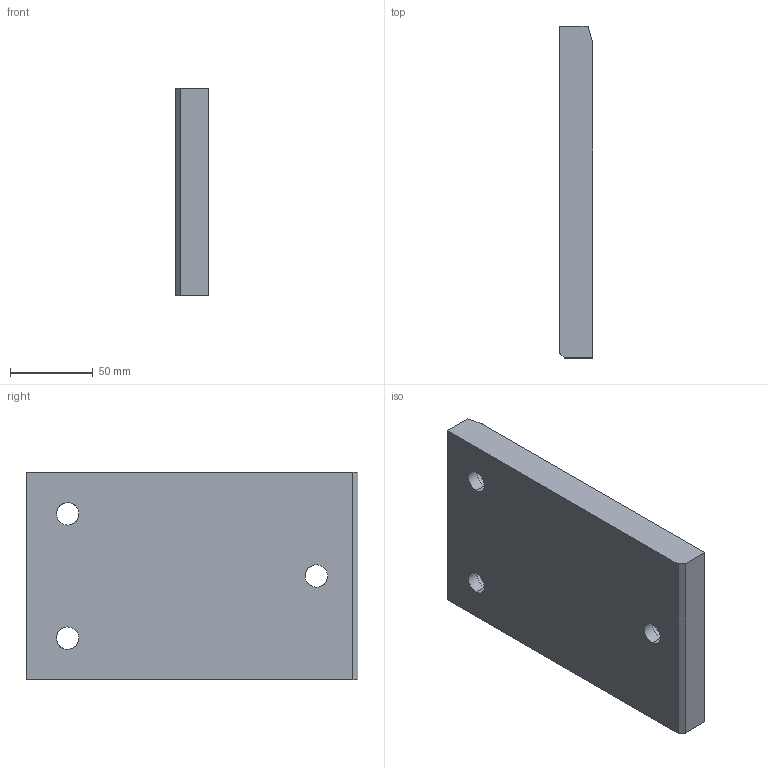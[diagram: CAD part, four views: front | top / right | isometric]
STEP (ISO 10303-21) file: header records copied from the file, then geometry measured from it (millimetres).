
FILE_DESCRIPTION(('CATIA V5 STEP Exchange'),'2;1');
FILE_NAME('C:\Users\borellobunino\Desktop\3D X SITO CF\A915\GSB_OILLESS_G22501125200\STEP-2.03\A915-125X200.stp','2019-07-14T13:58:28+00:00',('none'),('none'),'CATIA Version 5 Release 20 GA (IN-10)','CATIA V5 STEP AP203','none');
FILE_SCHEMA(('CONFIG_CONTROL_DESIGN'));
Length unit declared in the file: millimetre
Products named in the file (1): A915-125X200
Bounding box: 20 x 200 x 125 mm (x, y, z)
Volume: 482113.9 mm3; surface area: 64704.3 mm2
Topology: 1 solids, 1 shells, 30 faces, 99 edges, 74 vertices
Faces by surface type: cylinder 13, plane 11, torus 6
Entity records: 1437 total; most frequent: CARTESIAN_POINT 540, ORIENTED_EDGE 198, DIRECTION 135, EDGE_CURVE 99, AXIS2_PLACEMENT_3D 75, VERTEX_POINT 74, CIRCLE 44, EDGE_LOOP 39
